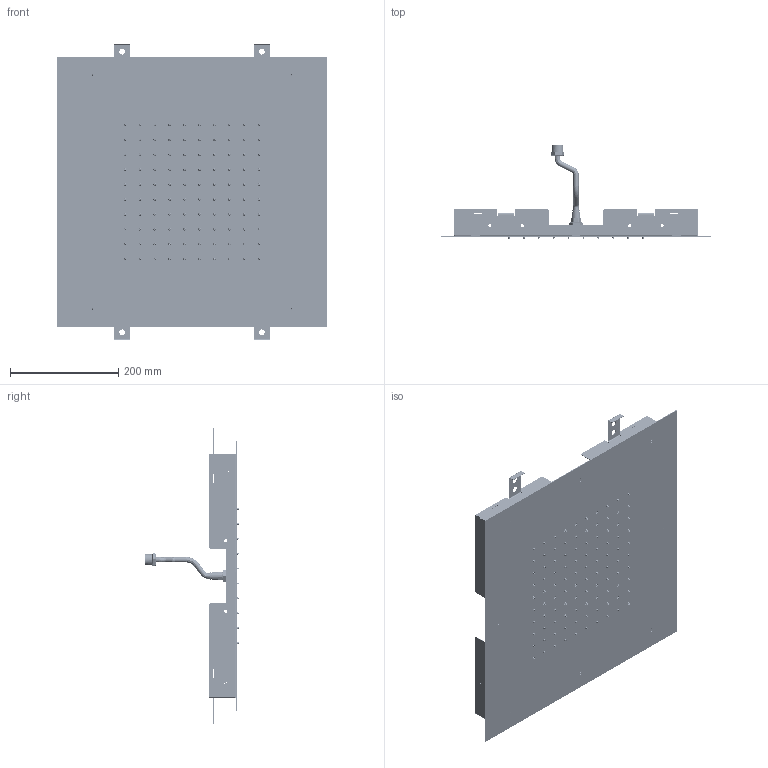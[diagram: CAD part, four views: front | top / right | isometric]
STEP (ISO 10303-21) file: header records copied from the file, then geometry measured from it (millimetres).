
FILE_DESCRIPTION (( 'STEP AP203' ), '1' );
FILE_NAME ('PIA13G.STEP', '2025-02-07T14:52:03', ( '' ), ( '' ), 'SwSTEP 2.0', 'SolidWorks 2024', '' );
FILE_SCHEMA (( 'CONFIG_CONTROL_DESIGN' ));
Length unit declared in the file: millimetre
Products named in the file (17): STRISCIA SOFFIONE_1; Tettarella_1; PIAS500_3; SOFFIONE SUPERIORE-NEW_1; PIA13G; SOFFIONE_1; M_1182_1; NUTZER M6_1; TELAIO 500 X 500; ATT MEZZO POLL_1; PORTANUTZER_1; TUTUBO-7_1; TUTUBO-8_1; ATTACCO DIRETTO 1-8_Ï10; RA_003_1; VITS_M6x16_1
Assembly tree (131 placements, depth 3):
  PIA13G
    PIAS500_3
    TELAIO 500 X 500
    SOFFIONE_1
      M_1182_1
      Tettarella_1  x100
      RA_003_1
      SOFFIONE SUPERIORE-NEW_1
    STRISCIA SOFFIONE_1  x2
    ATT MEZZO POLL_1  x2
    ATTACCO DIRETTO 1-8_Ï10
    TUTUBO-7_1
    TUTUBO-8_1
    PORTANUTZER_1  x8
      PORTANUTZER_1
      NUTZER M6_1
    VITS_M6x16_1  x8
Bounding box: 500 x 173.78 x 548 mm (x, y, z)
Volume: 728339.3 mm3; surface area: 1191053.1 mm2
Topology: 136 solids, 136 shells, 5682 faces, 12437 edges, 7332 vertices
Faces by surface type: bspline 2462, cylinder 1790, plane 1058, cone 372
Entity records: 47294 total; most frequent: CARTESIAN_POINT 8857, DIRECTION 7342, ORIENTED_EDGE 6724, EDGE_CURVE 3362, AXIS2_PLACEMENT_3D 2788, VERTEX_POINT 2185, EDGE_LOOP 1773, LINE 1766
